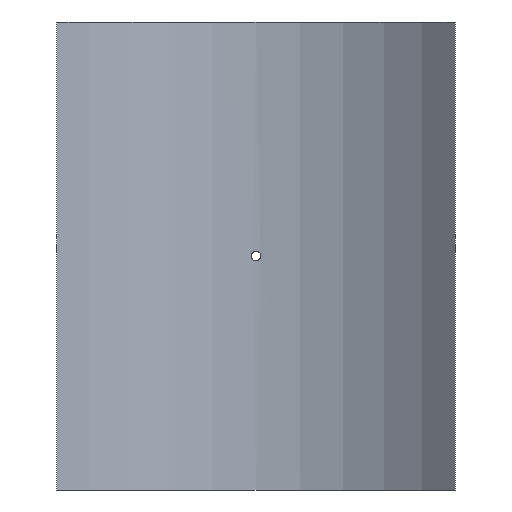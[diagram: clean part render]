
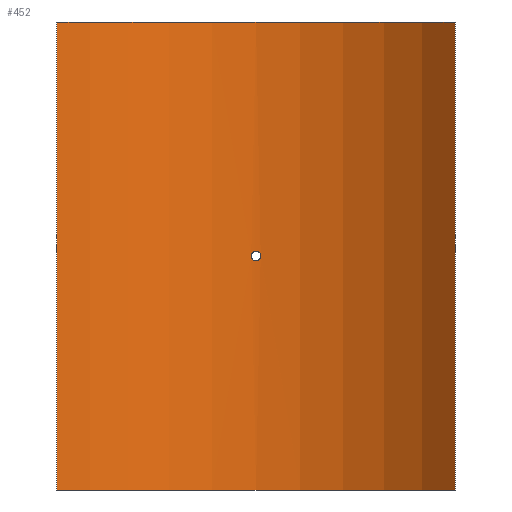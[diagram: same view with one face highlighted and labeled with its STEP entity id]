
A CAD part, front view. The second image highlights one B-rep face of the part: STEP entity #452.
In plain terms, the highlighted cylindrical face has radius 280 mm (diameter 560 mm), a partial arc.
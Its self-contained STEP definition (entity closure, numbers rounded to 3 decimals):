
#19=B_SPLINE_CURVE_WITH_KNOTS('',3,(#788,#789,#790,#791,#792,#793,#794,
#795,#796,#797,#798,#799,#800,#801,#802,#803,#804,#805,#806,#807,#808,#809,
#810,#811,#812,#813,#814,#815,#816,#817,#818,#819,#820,#821),
 .UNSPECIFIED.,.T.,.F.,(4,2,2,2,2,2,2,2,2,2,2,2,2,2,2,2,4),(0.,0.181,
0.362,0.542,0.723,0.904,
1.085,1.266,1.447,1.627,1.808,
1.989,2.17,2.351,2.531,2.712,
2.893),.UNSPECIFIED.);
#43=LINE('',#1065,#62);
#44=LINE('',#1068,#63);
#62=VECTOR('',#661,10.);
#63=VECTOR('',#664,10.);
#76=CYLINDRICAL_SURFACE('',#530,280.);
#88=FACE_BOUND('',#167,.T.);
#127=FACE_OUTER_BOUND('',#166,.T.);
#166=EDGE_LOOP('',(#405,#406,#407,#408));
#167=EDGE_LOOP('',(#409));
#201=CIRCLE('',#529,280.);
#202=CIRCLE('',#531,280.);
#219=VERTEX_POINT('',#786);
#242=VERTEX_POINT('',#1058);
#243=VERTEX_POINT('',#1060);
#244=VERTEX_POINT('',#1064);
#245=VERTEX_POINT('',#1066);
#267=EDGE_CURVE('',#219,#219,#19,.T.);
#299=EDGE_CURVE('',#242,#243,#201,.T.);
#301=EDGE_CURVE('',#244,#242,#43,.T.);
#302=EDGE_CURVE('',#245,#244,#202,.T.);
#303=EDGE_CURVE('',#245,#243,#44,.T.);
#405=ORIENTED_EDGE('',*,*,#301,.F.);
#406=ORIENTED_EDGE('',*,*,#302,.F.);
#407=ORIENTED_EDGE('',*,*,#303,.T.);
#408=ORIENTED_EDGE('',*,*,#299,.F.);
#409=ORIENTED_EDGE('',*,*,#267,.T.);
#452=ADVANCED_FACE('',(#127,#88),#76,.F.);
#529=AXIS2_PLACEMENT_3D('',#1061,#656,#657);
#530=AXIS2_PLACEMENT_3D('',#1063,#659,#660);
#531=AXIS2_PLACEMENT_3D('',#1067,#662,#663);
#656=DIRECTION('center_axis',(0.,0.,1.));
#657=DIRECTION('ref_axis',(0.714,0.7,0.));
#659=DIRECTION('center_axis',(0.,0.,1.));
#660=DIRECTION('ref_axis',(0.714,0.7,0.));
#661=DIRECTION('',(0.,0.,-1.));
#662=DIRECTION('center_axis',(0.,0.,-1.));
#663=DIRECTION('ref_axis',(0.714,0.7,0.));
#664=DIRECTION('',(0.,0.,-1.));
#786=CARTESIAN_POINT('',(4.8,279.959,0.));
#788=CARTESIAN_POINT('Ctrl Pts',(4.8,279.959,0.));
#789=CARTESIAN_POINT('Ctrl Pts',(4.8,279.959,-0.603));
#790=CARTESIAN_POINT('Ctrl Pts',(4.68,279.961,-1.246));
#791=CARTESIAN_POINT('Ctrl Pts',(4.19,279.969,-2.428));
#792=CARTESIAN_POINT('Ctrl Pts',(3.82,279.974,-2.968));
#793=CARTESIAN_POINT('Ctrl Pts',(2.968,279.985,-3.82));
#794=CARTESIAN_POINT('Ctrl Pts',(2.428,279.99,-4.19));
#795=CARTESIAN_POINT('Ctrl Pts',(1.246,279.998,-4.68));
#796=CARTESIAN_POINT('Ctrl Pts',(0.603,280.,-4.8));
#797=CARTESIAN_POINT('Ctrl Pts',(-0.603,280.,-4.8));
#798=CARTESIAN_POINT('Ctrl Pts',(-1.246,279.998,-4.68));
#799=CARTESIAN_POINT('Ctrl Pts',(-2.428,279.99,-4.19));
#800=CARTESIAN_POINT('Ctrl Pts',(-2.968,279.985,-3.82));
#801=CARTESIAN_POINT('Ctrl Pts',(-3.82,279.974,-2.968));
#802=CARTESIAN_POINT('Ctrl Pts',(-4.19,279.969,-2.428));
#803=CARTESIAN_POINT('Ctrl Pts',(-4.68,279.961,-1.246));
#804=CARTESIAN_POINT('Ctrl Pts',(-4.8,279.959,-0.603));
#805=CARTESIAN_POINT('Ctrl Pts',(-4.8,279.959,0.603));
#806=CARTESIAN_POINT('Ctrl Pts',(-4.68,279.961,1.246));
#807=CARTESIAN_POINT('Ctrl Pts',(-4.19,279.969,2.428));
#808=CARTESIAN_POINT('Ctrl Pts',(-3.82,279.974,2.968));
#809=CARTESIAN_POINT('Ctrl Pts',(-2.968,279.985,3.82));
#810=CARTESIAN_POINT('Ctrl Pts',(-2.428,279.99,4.19));
#811=CARTESIAN_POINT('Ctrl Pts',(-1.246,279.998,4.68));
#812=CARTESIAN_POINT('Ctrl Pts',(-0.603,280.,4.8));
#813=CARTESIAN_POINT('Ctrl Pts',(0.603,280.,4.8));
#814=CARTESIAN_POINT('Ctrl Pts',(1.246,279.998,4.68));
#815=CARTESIAN_POINT('Ctrl Pts',(2.428,279.99,4.19));
#816=CARTESIAN_POINT('Ctrl Pts',(2.968,279.985,3.82));
#817=CARTESIAN_POINT('Ctrl Pts',(3.82,279.974,2.968));
#818=CARTESIAN_POINT('Ctrl Pts',(4.19,279.969,2.428));
#819=CARTESIAN_POINT('Ctrl Pts',(4.68,279.961,1.246));
#820=CARTESIAN_POINT('Ctrl Pts',(4.8,279.959,0.603));
#821=CARTESIAN_POINT('Ctrl Pts',(4.8,279.959,0.));
#1058=CARTESIAN_POINT('',(200.,195.959,-235.));
#1060=CARTESIAN_POINT('',(-200.,195.959,-235.));
#1061=CARTESIAN_POINT('Origin',(0.,0.,
-235.));
#1063=CARTESIAN_POINT('Origin',(0.,0.,
0.));
#1064=CARTESIAN_POINT('',(200.,195.959,235.));
#1065=CARTESIAN_POINT('',(200.,195.959,0.));
#1066=CARTESIAN_POINT('',(-200.,195.959,235.));
#1067=CARTESIAN_POINT('Origin',(0.,0.,
235.));
#1068=CARTESIAN_POINT('',(-200.,195.959,0.));
